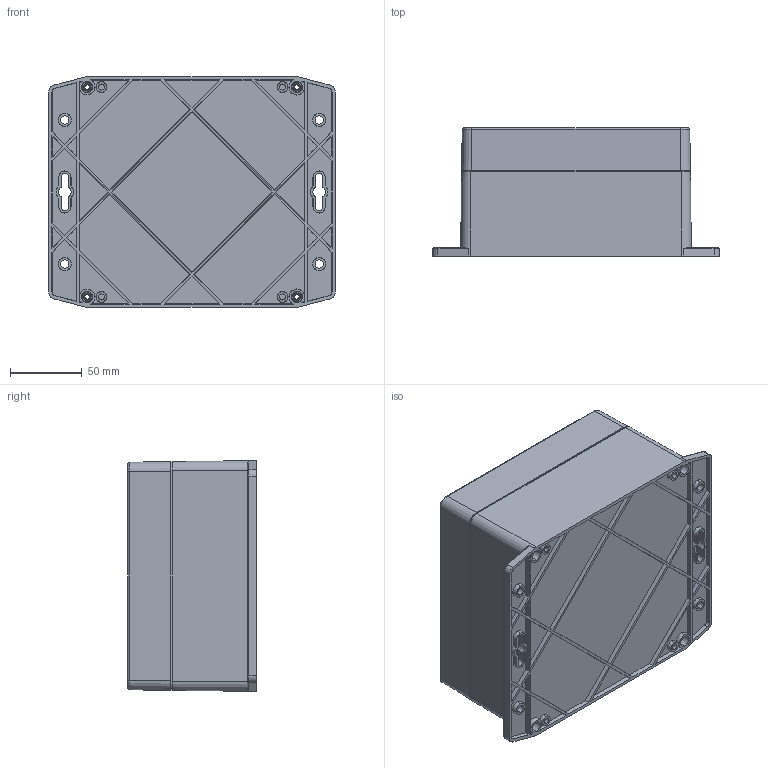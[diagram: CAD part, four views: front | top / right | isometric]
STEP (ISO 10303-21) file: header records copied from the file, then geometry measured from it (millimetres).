
FILE_DESCRIPTION (( 'STEP AP214' ), '1' );
FILE_NAME ('PF246.STEP', '2020-08-29T05:00:21', ( '' ), ( '' ), 'SwSTEP 2.0', 'SolidWorks 2020', '' );
FILE_SCHEMA (( 'AUTOMOTIVE_DESIGN' ));
Length unit declared in the file: millimetre
Products named in the file (4): PF246
Assembly tree (3 placements, depth 2):
  PF246
    PF246
    PF246
    PF246
Bounding box: 200.2 x 89.7 x 161.04 mm (x, y, z)
Volume: 465261 mm3; surface area: 310077.6 mm2
Topology: 7 solids, 7 shells, 1223 faces, 3224 edges, 2106 vertices
Faces by surface type: plane 401, cone 290, cylinder 274, bspline 232, torus 26
Entity records: 45620 total; most frequent: CARTESIAN_POINT 11179, ORIENTED_EDGE 6408, DIRECTION 5722, EDGE_CURVE 3204, VERTEX_POINT 2106, AXIS2_PLACEMENT_3D 2081, LINE 1560, VECTOR 1560
